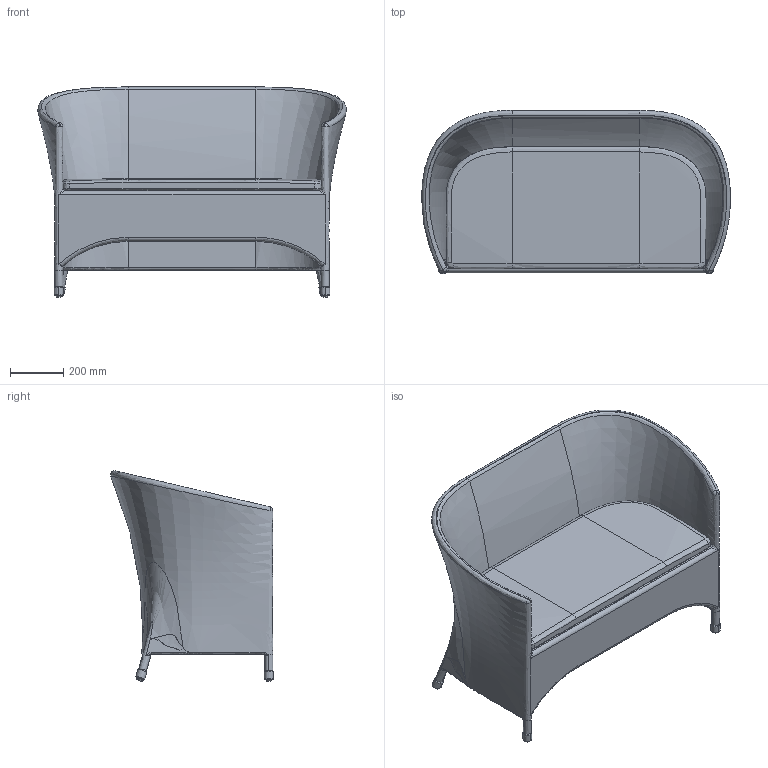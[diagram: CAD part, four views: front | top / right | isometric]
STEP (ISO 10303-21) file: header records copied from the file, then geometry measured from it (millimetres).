
FILE_DESCRIPTION(/* description */ (''),/* implementation_level */ '2;1');
FILE_NAME(/* name */ 'KINOSH~4',/* time_stamp */ '2019-07-19T09:49:11+09:00',/* author */ (''),/* organization */ (''),/* preprocessor_version */ 'ST-DEVELOPER v15',/* originating_system */ '',/* authorisation */ '');
FILE_SCHEMA (('AUTOMOTIVE_DESIGN'));
Length unit declared in the file: millimetre
Products named in the file (1): Document
Bounding box: 1159.35 x 612.15 x 790.11 mm (x, y, z)
Volume: 139609.5 mm3; surface area: 4736685.6 mm2
Topology: 4 solids, 7 shells, 190 faces, 476 edges, 281 vertices
Faces by surface type: bspline 161, plane 29
Entity records: 43238 total; most frequent: CARTESIAN_POINT 40654, ORIENTED_EDGE 884, EDGE_CURVE 468, VERTEX_POINT 281, B_SPLINE_CURVE_WITH_KNOTS 218, EDGE_LOOP 194, ADVANCED_FACE 190, FACE_OUTER_BOUND 190
